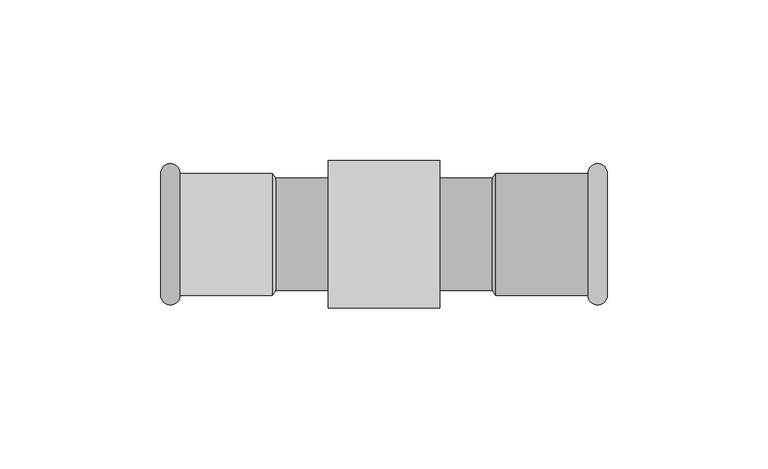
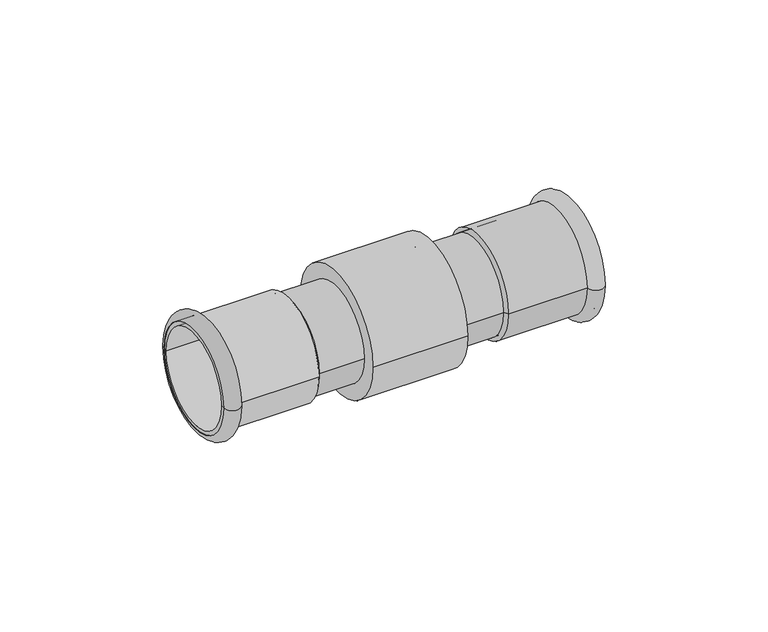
"""IFC4 building model written with IfcOpenShell, lengths in millimetres: pipe fitting geometry, NLRS_50_PIF_UN_Geberit Mapress rvs axiale compensator met persmoffen_PRO_247182 : DN12-100 / d15-108 - OD."""

import ifcopenshell
import ifcopenshell.guid

model = None  # the IFC model being written
_history = None  # IfcOwnerHistory: only IFC2X3 demands one
_inside = {}  # id of a spatial element -> (the spatial element, [elements in it])
_under = {}  # id of a project, library or spatial element -> (it, [spatial elements below it])
_declared = {}  # id of a project -> (the project, [libraries it declares])
_typed = {}  # id of a type object -> (the type object, [elements of that type])
_made_of = {}  # id of a material, layer set ... -> (it, [elements and type objects made of it])


def new_model(schema):
    """Start an empty IFC model of exactly this schema.

    Asked for "IFC4X3", IfcOpenShell would pick the latest addendum, in which some entities
    have other attributes; the version numbers below select the first issue.
    IFC2X3 requires an IfcOwnerHistory on every rooted entity: one is made here for all.
    """
    global model, _history
    if schema == "IFC4X3":
        model = ifcopenshell.file(schema_version=(4, 3, 0, 0))
    else:
        model = ifcopenshell.file(schema=schema)
    _inside.clear()
    _under.clear()
    _declared.clear()
    _typed.clear()
    _made_of.clear()
    _history = None
    if model.schema == "IFC2X3":
        org = make("IfcOrganization", Name="unknown")
        user = make(
            "IfcPersonAndOrganization",
            ThePerson=make("IfcPerson", FamilyName="unknown"),
            TheOrganization=org,
        )
        app = make(
            "IfcApplication",
            ApplicationDeveloper=org,
            Version="unknown",
            ApplicationFullName="unknown",
            ApplicationIdentifier="unknown",
        )
        _history = make(
            "IfcOwnerHistory",
            OwningUser=user,
            OwningApplication=app,
            ChangeAction="ADDED",
            CreationDate=0,
        )
    return model


def make(cls, **values):
    """One entity of the class cls with the attributes given. An attribute that is None is left unset."""
    return model.create_entity(
        cls, **{name: value for name, value in values.items() if value is not None}
    )


def rooted(cls, **values):
    """An entity with a GlobalId (a new one), such as an element, a storey or a relation."""
    return make(cls, GlobalId=ifcopenshell.guid.new(), OwnerHistory=_history, **values)


def si_unit(unit_type, name, prefix=None):
    """IfcSIUnit, for example si_unit("LENGTHUNIT", "METRE", prefix="MILLI")."""
    return make("IfcSIUnit", UnitType=unit_type, Prefix=prefix, Name=name)


def assignment(units):
    """IfcUnitAssignment: the units of a project."""
    return None if units is None else make("IfcUnitAssignment", Units=units)


def point(xyz):
    """IfcCartesianPoint."""
    return None if xyz is None else make("IfcCartesianPoint", Coordinates=xyz)


def direction(xyz):
    """IfcDirection."""
    return None if xyz is None else make("IfcDirection", DirectionRatios=xyz)


def frame(location, z_axis=None, x_axis=None):
    """IfcAxis2Placement3D, a coordinate frame: its origin and axes. An axis left out is left unset."""
    return make(
        "IfcAxis2Placement3D",
        Location=point(location),
        Axis=direction(z_axis),
        RefDirection=direction(x_axis),
    )


def frame_2d(location, x_axis=None):
    """IfcAxis2Placement2D, a coordinate frame in the plane: its origin and x axis."""
    return make(
        "IfcAxis2Placement2D", Location=point(location), RefDirection=direction(x_axis)
    )


def origin():
    """The frame at (0, 0, 0) with its axes left unset."""
    return frame((0.0, 0.0, 0.0))


def origin_2d():
    """The frame at (0, 0) in the plane with its x axis left unset."""
    return frame_2d((0.0, 0.0))


def place(relative_to, where):
    """IfcLocalPlacement: puts the frame where relative to a parent placement (None: the world)."""
    return make(
        "IfcLocalPlacement", PlacementRelTo=relative_to, RelativePlacement=where
    )


def context(
    kind, dimensions, precision=None, world=None, true_north=None, identifier=None
):
    """IfcGeometricRepresentationContext, for example the 3D "Model" context."""
    return make(
        "IfcGeometricRepresentationContext",
        ContextIdentifier=identifier,
        ContextType=kind,
        CoordinateSpaceDimension=dimensions,
        Precision=precision,
        WorldCoordinateSystem=world,
        TrueNorth=true_north,
    )


def project(units=None, contexts=None):
    """IfcProject with its units and contexts."""
    return rooted(
        "IfcProject",
        Name="project",
        RepresentationContexts=contexts,
        UnitsInContext=assignment(units),
    )


def spatial(cls, under=None, at=None, **own):
    """A site, building, storey or space (cls), placed at a placement, below another one or the project."""
    s = rooted(cls, ObjectPlacement=at, **own)
    if under is not None:
        _under.setdefault(under.id(), (under, []))[1].append(s)
    return s


def polyline(points):
    """IfcPolyline through the points."""
    return make("IfcPolyline", Points=[point(p) for p in points])


def circle_curve(where, radius):
    """IfcCircle in the frame where."""
    return make("IfcCircle", Position=where, Radius=radius)


def ellipse_curve(where, semi_axis1, semi_axis2):
    """IfcEllipse in the frame where."""
    return make(
        "IfcEllipse", Position=where, SemiAxis1=semi_axis1, SemiAxis2=semi_axis2
    )


def trimmed(basis, trim1, trim2, sense, master):
    """IfcTrimmedCurve: the piece of a basis curve between two trims."""
    return make(
        "IfcTrimmedCurve",
        BasisCurve=basis,
        Trim1=trim1,
        Trim2=trim2,
        SenseAgreement=sense,
        MasterRepresentation=master,
    )


def segment(curve, same_sense, transition):
    """IfcCompositeCurveSegment."""
    return make(
        "IfcCompositeCurveSegment",
        Transition=transition,
        SameSense=same_sense,
        ParentCurve=curve,
    )


def composite_curve(segments, self_intersect=None):
    """IfcCompositeCurve: segments joined end to end."""
    return make("IfcCompositeCurve", Segments=segments, SelfIntersect=self_intersect)


def outline(outer, holes=None, kind="AREA"):
    """IfcArbitraryClosedProfileDef: a profile drawn as a closed curve; with holes, ...WithVoids."""
    if holes is None:
        return make("IfcArbitraryClosedProfileDef", ProfileType=kind, OuterCurve=outer)
    return make(
        "IfcArbitraryProfileDefWithVoids",
        ProfileType=kind,
        OuterCurve=outer,
        InnerCurves=holes,
    )


def extrude(swept, where, along, depth):
    """IfcExtrudedAreaSolid: the profile swept, set in the frame where, extruded along a direction by depth."""
    return make(
        "IfcExtrudedAreaSolid",
        SweptArea=swept,
        Position=where,
        ExtrudedDirection=direction(along),
        Depth=depth,
    )


def shape(context_of_items, identifier, shape_type, items):
    """IfcShapeRepresentation: the items that make up one representation, for example the "Body"."""
    return make(
        "IfcShapeRepresentation",
        ContextOfItems=context_of_items,
        RepresentationIdentifier=identifier,
        RepresentationType=shape_type,
        Items=items,
    )


def source(mapping_origin, context_of_items, identifier, shape_type, items):
    """IfcRepresentationMap: a shape defined once, which mapped items show again and again."""
    return make(
        "IfcRepresentationMap",
        MappingOrigin=mapping_origin,
        MappedRepresentation=shape(context_of_items, identifier, shape_type, items),
    )


def transform(
    local_origin,
    x_axis=None,
    y_axis=None,
    z_axis=None,
    scale=None,
    scale2=None,
    scale3=None,
    uniform=True,
):
    """IfcCartesianTransformationOperator3D, or its non-uniform kind. x_axis, y_axis, z_axis: its Axis1, 2, 3."""
    if uniform:
        return make(
            "IfcCartesianTransformationOperator3D",
            Axis1=direction(x_axis),
            Axis2=direction(y_axis),
            LocalOrigin=point(local_origin),
            Scale=scale,
            Axis3=direction(z_axis),
        )
    return make(
        "IfcCartesianTransformationOperator3DnonUniform",
        Axis1=direction(x_axis),
        Axis2=direction(y_axis),
        LocalOrigin=point(local_origin),
        Scale=scale,
        Axis3=direction(z_axis),
        Scale2=scale2,
        Scale3=scale3,
    )


def mapped(mapping_source, mapping_target):
    """IfcMappedItem: shows the shape of a source again, moved by a transform."""
    return make(
        "IfcMappedItem", MappingSource=mapping_source, MappingTarget=mapping_target
    )


def made_of(thing, what):
    """Note that an element or type object is made of a material, layer set ...; save() writes the relation."""
    if what is not None:
        _made_of.setdefault(what.id(), (what, []))[1].append(thing)
    return thing


def element(
    cls,
    number,
    at=None,
    inside=None,
    cuts=None,
    type_object=None,
    material=None,
    context=None,
    identifier="Body",
    shape_type=None,
    held_by="IfcProductDefinitionShape",
    body=None,
    shapes=None,
    **own,
):
    """One element of the class cls, such as IfcWall. Its Tag is "e" and its number.

    at: its placement. inside: the storey or other place that contains it. cuts: it is an
    opening in that element (IfcRelVoidsElement). A single representation is given by context,
    identifier, shape_type and body (its items); several are given by shapes. held_by: the class
    of the entity that holds the representations. save() writes the other relations.
    """
    e = rooted(cls, Tag="e%d" % number, ObjectPlacement=at, **own)
    if body is not None:
        shapes = [shape(context, identifier, shape_type, body)]
    if shapes is not None:
        e.Representation = make(held_by, Representations=shapes)
    if inside is not None:
        _inside.setdefault(inside.id(), (inside, []))[1].append(e)
    if cuts is not None:
        rooted(
            "IfcRelVoidsElement", RelatingBuildingElement=cuts, RelatedOpeningElement=e
        )
    if type_object is not None:
        _typed.setdefault(type_object.id(), (type_object, []))[1].append(e)
    return made_of(e, material)


def aggregate(whole, parts):
    """IfcRelAggregates: a whole, such as a stair, and the parts it consists of."""
    return rooted("IfcRelAggregates", RelatingObject=whole, RelatedObjects=parts)


def save(model, path):
    """Write the relations noted so far, then the file.

    IfcRelAggregates (storeys below a building ...), IfcRelContainedInSpatialStructure (elements
    in a storey), IfcRelDefinesByType, IfcRelAssociatesMaterial and IfcRelDeclares: one each for
    every whole, place, type object, material and project.
    """
    for whole, parts in _under.values():
        aggregate(whole, parts)
    for where, things in _inside.values():
        rooted(
            "IfcRelContainedInSpatialStructure",
            RelatedElements=things,
            RelatingStructure=where,
        )
    for kind, things in _typed.values():
        rooted("IfcRelDefinesByType", RelatedObjects=things, RelatingType=kind)
    for what, things in _made_of.values():
        rooted("IfcRelAssociatesMaterial", RelatedObjects=things, RelatingMaterial=what)
    for by, libraries in _declared.values():
        rooted("IfcRelDeclares", RelatingContext=by, RelatedDefinitions=libraries)
    model.write(path)


def plane_surface(at):
    """IfcPlane: the flat surface through the origin of the frame at, square to its z axis."""
    return make("IfcPlane", Position=at)


def cylinder_surface(at, radius):
    """IfcCylindricalSurface: all points at the distance radius from the z axis of the frame at."""
    return make("IfcCylindricalSurface", Position=at, Radius=radius)


def revolved_surface(curve, axis_point, axis_direction):
    """IfcSurfaceOfRevolution: the curve turned about the line through axis_point along axis_direction."""
    return make(
        "IfcSurfaceOfRevolution",
        SweptCurve=make("IfcArbitraryOpenProfileDef", ProfileType="CURVE", Curve=curve),
        AxisPosition=make("IfcAxis1Placement", Location=point(axis_point), Axis=direction(axis_direction)),
    )


def advanced_brep(points, edges, surfaces, faces):
    """IfcAdvancedBrep: a solid bounded by faces that lie on surfaces and meet in shared edges.

    An edge is (start, end): straight between two places in points (the first is 0);
    or (start, end, curve); or (start, end, curve, False) where it runs against its curve.
    A face is (place in surfaces, loops), or (place, loops, False) where it looks against
    its surface's normal. A loop lists edges by number (the first is 1), with a minus sign
    where the edge is run from its end to its start. The first loop is the outer one.
    """
    corners = [point(p) for p in points]
    vertices = [make("IfcVertexPoint", VertexGeometry=c) for c in corners]
    made = []
    for start, end, *more in edges:
        made.append(
            make(
                "IfcEdgeCurve",
                EdgeStart=vertices[start],
                EdgeEnd=vertices[end],
                EdgeGeometry=more[0] if more else make("IfcPolyline", Points=[corners[start], corners[end]]),
                SameSense=more[1] if len(more) > 1 else True,
            )
        )
    hull = []
    for where, loops, *sense in faces:
        bounds = []
        for j, loop in enumerate(loops):
            ring = [make("IfcOrientedEdge", EdgeElement=made[abs(k) - 1], Orientation=k > 0) for k in loop]
            bounds.append(
                make(
                    "IfcFaceOuterBound" if j == 0 else "IfcFaceBound",
                    Bound=make("IfcEdgeLoop", EdgeList=ring),
                    Orientation=True,
                )
            )
        hull.append(make("IfcAdvancedFace", Bounds=bounds, FaceSurface=surfaces[where], SameSense=sense[0] if sense else True))
    return make("IfcAdvancedBrep", Outer=make("IfcClosedShell", CfsFaces=hull))


def pipe_fitting_ef4b92c7(model_context):
    return source(origin(), model_context, "Body", "SolidModel", [
        advanced_brep(
        [(69.5, -19.0, 0.0), (69.5, 19.0, 0.0), (63.4987073, 19.0, 0.0), (63.4987073, -19.0, 0.0)],
        [
            (0, 1, circle_curve(frame((69.5, 0.0, 0.0), z_axis=(1.0, 0.0, 0.0), x_axis=(0.0, 1.0, 0.0)), 19.0)),
            (1, 2),
            (2, 3, circle_curve(frame((63.4987073, 0.0, 0.0), z_axis=(-1.0, 0.0, 0.0), x_axis=(0.0, 1.0, 0.0)), 19.0)),
            (3, 0),
            (1, 0, circle_curve(frame((69.5, 0.0, 0.0), z_axis=(1.0, 0.0, 0.0), x_axis=(0.0, 1.0, 0.0)), 19.0)),
            (3, 2, circle_curve(frame((63.4987073, 0.0, 0.0), z_axis=(-1.0, 0.0, 0.0), x_axis=(0.0, 1.0, 0.0)), 19.0)),
            (2, 1, circle_curve(frame((66.4993536, 19.0, 0.0), z_axis=(0.0, 0.0, -1.0), x_axis=(1.0, 0.0, 0.0)), 3.0006464)),
            (0, 3, circle_curve(frame((66.4993536, -19.0, 0.0), z_axis=(0.0, 0.0, -1.0), x_axis=(1.0, 0.0, 0.0)), 3.0006464)),
        ],
        [
            revolved_surface(polyline([(63.4987073, 19.0, 0.0), (69.5, 19.0, 0.0)]), (34.75, 0.0, 0.0), (-1.0, 0.0, 0.0)),
            revolved_surface(trimmed(ellipse_curve(frame((66.4993536, 19.0, 0.0), z_axis=(0.0, 0.0, 1.0), x_axis=(1.0, 0.0, 0.0)), 3.0006464, 3.0006464), [point((69.5, 19.0, 0.0))], [point((63.4987073, 19.0, 0.0))], True, "CARTESIAN"), (34.75, 0.0, 0.0), (-1.0, 0.0, 0.0)),
        ],
        [
            (0, [[1, 2, 3, 4]]),
            (0, [[5, -4, 6, -2]]),
            (1, [[-3, 7, -1, 8]]),
            (1, [[-6, -8, -5, -7]]),
        ],
    ),
        advanced_brep(
        [(69.5, -17.5, 0.0), (69.5, 17.5, 0.0), (33.75, 17.5, 0.0), (33.75, -17.5, 0.0), (69.5, -19.0, 0.0), (69.5, 19.0, 0.0), (34.75, -19.0, 0.0), (34.75, 19.0, 0.0)],
        [
            (0, 1, circle_curve(frame((69.5, 0.0, 0.0), z_axis=(1.0, 0.0, 0.0), x_axis=(0.0, 1.0, 0.0)), 17.5)),
            (1, 2),
            (2, 3, circle_curve(frame((33.75, 0.0, 0.0), z_axis=(-1.0, 0.0, 0.0), x_axis=(0.0, 1.0, 0.0)), 17.5)),
            (3, 0),
            (1, 0, circle_curve(frame((69.5, 0.0, 0.0), z_axis=(1.0, 0.0, 0.0), x_axis=(0.0, 1.0, 0.0)), 17.5)),
            (3, 2, circle_curve(frame((33.75, 0.0, 0.0), z_axis=(-1.0, 0.0, 0.0), x_axis=(0.0, 1.0, 0.0)), 17.5)),
            (4, 5, circle_curve(frame((69.5, 0.0, 0.0), z_axis=(1.0, 0.0, 0.0), x_axis=(0.0, 1.0, 0.0)), 19.0)),
            (5, 1),
            (0, 4),
            (5, 4, circle_curve(frame((69.5, 0.0, 0.0), z_axis=(1.0, 0.0, 0.0), x_axis=(0.0, 1.0, 0.0)), 19.0)),
            (6, 7, circle_curve(frame((34.75, 0.0, 0.0), z_axis=(1.0, 0.0, 0.0), x_axis=(0.0, 1.0, 0.0)), 19.0)),
            (7, 5),
            (4, 6),
            (7, 6, circle_curve(frame((34.75, 0.0, 0.0), z_axis=(1.0, 0.0, 0.0), x_axis=(0.0, 1.0, 0.0)), 19.0)),
            (2, 7),
            (6, 3),
        ],
        [
            revolved_surface(polyline([(33.75, 17.5, 0.0), (69.5, 17.5, 0.0)]), (34.75, 0.0, 0.0), (-1.0, 0.0, 0.0)),
            plane_surface(frame((69.5, 0.0, 0.0), z_axis=(1.0, 0.0, 0.0), x_axis=(0.0, 1.0, 0.0))),
            cylinder_surface(frame((34.75, 0.0, 0.0), z_axis=(-1.0, 0.0, 0.0), x_axis=(0.0, 1.0, 0.0)), 19.0),
            revolved_surface(polyline([(34.75, 19.0, 0.0), (33.75, 17.5, 0.0)]), (34.75, 0.0, 0.0), (-1.0, 0.0, 0.0)),
        ],
        [
            (0, [[1, 2, 3, 4]]),
            (0, [[5, -4, 6, -2]]),
            (1, [[7, 8, -1, 9]]),
            (1, [[10, -9, -5, -8]]),
            (2, [[11, 12, -7, 13]]),
            (2, [[14, -13, -10, -12]]),
            (3, [[-3, 15, -11, 16]]),
            (3, [[-6, -16, -14, -15]]),
        ],
    ),
        advanced_brep(
        [(-69.5, 19.0, 0.0), (-69.5, -19.0, 0.0), (-63.4987073, -19.0, 0.0), (-63.4987073, 19.0, 0.0)],
        [
            (0, 1, circle_curve(frame((-69.5, 0.0, 0.0), z_axis=(-1.0, 0.0, 0.0), x_axis=(0.0, -1.0, 0.0)), 19.0)),
            (1, 2),
            (2, 3, circle_curve(frame((-63.4987073, 0.0, 0.0), z_axis=(1.0, 0.0, 0.0), x_axis=(0.0, -1.0, 0.0)), 19.0)),
            (3, 0),
            (1, 0, circle_curve(frame((-69.5, 0.0, 0.0), z_axis=(-1.0, 0.0, 0.0), x_axis=(0.0, -1.0, 0.0)), 19.0)),
            (3, 2, circle_curve(frame((-63.4987073, 0.0, 0.0), z_axis=(1.0, 0.0, 0.0), x_axis=(0.0, -1.0, 0.0)), 19.0)),
            (2, 1, circle_curve(frame((-66.4993536, -19.0, 0.0), z_axis=(0.0, 0.0, -1.0), x_axis=(-1.0, 0.0, 0.0)), 3.0006464)),
            (0, 3, circle_curve(frame((-66.4993536, 19.0, 0.0), z_axis=(0.0, 0.0, -1.0), x_axis=(-1.0, 0.0, 0.0)), 3.0006464)),
        ],
        [
            revolved_surface(polyline([(-63.4987073, -19.0, 0.0), (-69.5, -19.0, 0.0)]), (-34.75, 0.0, 0.0), (1.0, 0.0, 0.0)),
            revolved_surface(trimmed(ellipse_curve(frame((-66.4993536, -19.0, 0.0), z_axis=(0.0, 0.0, 1.0), x_axis=(-1.0, 0.0, 0.0)), 3.0006464, 3.0006464), [point((-69.5, -19.0, 0.0))], [point((-63.4987073, -19.0, 0.0))], True, "CARTESIAN"), (-34.75, 0.0, 0.0), (1.0, 0.0, 0.0)),
        ],
        [
            (0, [[1, 2, 3, 4]]),
            (0, [[5, -4, 6, -2]]),
            (1, [[-3, 7, -1, 8]]),
            (1, [[-6, -8, -5, -7]]),
        ],
    ),
        advanced_brep(
        [(-69.5, 17.5, 0.0), (-69.5, -17.5, 0.0), (-33.75, -17.5, 0.0), (-33.75, 17.5, 0.0), (-69.5, 19.0, 0.0), (-69.5, -19.0, 0.0), (-34.75, 19.0, 0.0), (-34.75, -19.0, 0.0)],
        [
            (0, 1, circle_curve(frame((-69.5, 0.0, 0.0), z_axis=(-1.0, 0.0, 0.0), x_axis=(0.0, -1.0, 0.0)), 17.5)),
            (1, 2),
            (2, 3, circle_curve(frame((-33.75, 0.0, 0.0), z_axis=(1.0, 0.0, 0.0), x_axis=(0.0, -1.0, 0.0)), 17.5)),
            (3, 0),
            (1, 0, circle_curve(frame((-69.5, 0.0, 0.0), z_axis=(-1.0, 0.0, 0.0), x_axis=(0.0, -1.0, 0.0)), 17.5)),
            (3, 2, circle_curve(frame((-33.75, 0.0, 0.0), z_axis=(1.0, 0.0, 0.0), x_axis=(0.0, -1.0, 0.0)), 17.5)),
            (4, 5, circle_curve(frame((-69.5, 0.0, 0.0), z_axis=(-1.0, 0.0, 0.0), x_axis=(0.0, -1.0, 0.0)), 19.0)),
            (5, 1),
            (0, 4),
            (5, 4, circle_curve(frame((-69.5, 0.0, 0.0), z_axis=(-1.0, 0.0, 0.0), x_axis=(0.0, -1.0, 0.0)), 19.0)),
            (6, 7, circle_curve(frame((-34.75, 0.0, 0.0), z_axis=(-1.0, 0.0, 0.0), x_axis=(0.0, -1.0, 0.0)), 19.0)),
            (7, 5),
            (4, 6),
            (7, 6, circle_curve(frame((-34.75, 0.0, 0.0), z_axis=(-1.0, 0.0, 0.0), x_axis=(0.0, -1.0, 0.0)), 19.0)),
            (2, 7),
            (6, 3),
        ],
        [
            revolved_surface(polyline([(-33.75, -17.5, 0.0), (-69.5, -17.5, 0.0)]), (-34.75, 0.0, 0.0), (1.0, 0.0, 0.0)),
            plane_surface(frame((-69.5, 0.0, 0.0), z_axis=(-1.0, 0.0, 0.0), x_axis=(0.0, -1.0, 0.0))),
            cylinder_surface(frame((-34.75, 0.0, 0.0), z_axis=(1.0, 0.0, 0.0), x_axis=(0.0, -1.0, 0.0)), 19.0),
            revolved_surface(polyline([(-34.75, -19.0, 0.0), (-33.75, -17.5, 0.0)]), (-34.75, 0.0, 0.0), (1.0, 0.0, 0.0)),
        ],
        [
            (0, [[1, 2, 3, 4]]),
            (0, [[5, -4, 6, -2]]),
            (1, [[7, 8, -1, 9]]),
            (1, [[10, -9, -5, -8]]),
            (2, [[11, 12, -7, 13]]),
            (2, [[14, -13, -10, -12]]),
            (3, [[-3, 15, -11, 16]]),
            (3, [[-6, -16, -14, -15]]),
        ],
    ),
        extrude(outline(composite_curve([segment(trimmed(circle_curve(origin_2d(), 23.0), [point((-23.0, 0.0))], [point((23.0, 0.0))], False, "CARTESIAN"), True, "CONTINUOUS"), segment(trimmed(circle_curve(origin_2d(), 23.0), [point((23.0, 0.0))], [point((-23.0, 0.0))], False, "CARTESIAN"), True, "CONTINUOUS")], self_intersect=False), holes=[composite_curve([segment(trimmed(circle_curve(origin_2d(), 17.5), [point((-17.5, 0.0))], [point((17.5, 0.0))], True, "CARTESIAN"), True, "CONTINUOUS"), segment(trimmed(circle_curve(origin_2d(), 17.5), [point((17.5, 0.0))], [point((-17.5, 0.0))], True, "CARTESIAN"), True, "CONTINUOUS")], self_intersect=False)]), frame((-17.375, 0.0, 0.0), z_axis=(1.0, 0.0, 0.0), x_axis=(0.0, 1.0, 0.0)), (0.0, 0.0, 1.0), 34.75),
        extrude(outline(composite_curve([segment(trimmed(circle_curve(origin_2d(), 17.5), [point((-17.5, 0.0))], [point((17.5, 0.0))], False, "CARTESIAN"), True, "CONTINUOUS"), segment(trimmed(circle_curve(origin_2d(), 17.5), [point((17.5, 0.0))], [point((-17.5, 0.0))], False, "CARTESIAN"), True, "CONTINUOUS")], self_intersect=False)), frame((-34.75, 0.0, 0.0), z_axis=(1.0, 0.0, 0.0), x_axis=(0.0, 1.0, 0.0)), (0.0, 0.0, 1.0), 69.5),
    ])


if __name__ == "__main__":
    model = new_model("IFC4")
    model_context = context("Model", 3, world=origin())
    ifc_project = project(units=[si_unit("LENGTHUNIT", "METRE", prefix="MILLI")], contexts=[model_context])
    site = spatial("IfcSite", under=ifc_project)
    building = spatial("IfcBuilding", under=site)
    placement = place(None, origin())
    pipe_fitting_shape = pipe_fitting_ef4b92c7(model_context)
    element("IfcPipeFitting", 1, ObjectType="NLRS_50_PIF_UN_Geberit Mapress rvs axiale compensator met persmoffen_PRO_247182 : DN12-100 / d15-108 - OD", at=placement, inside=building, context=model_context, shape_type="MappedRepresentation", body=[
        mapped(pipe_fitting_shape, transform((0.0, 0.0, 0.0), x_axis=(1.0, 0.0, 0.0), y_axis=(0.0, 1.0, 0.0), z_axis=(0.0, 0.0, 1.0))),
    ])
    save(model, "model.ifc")
